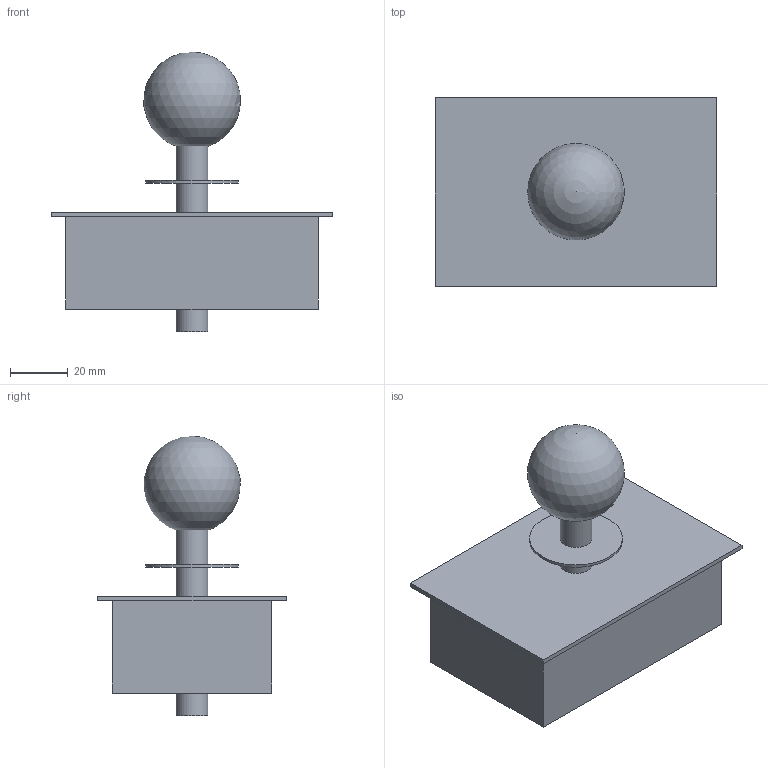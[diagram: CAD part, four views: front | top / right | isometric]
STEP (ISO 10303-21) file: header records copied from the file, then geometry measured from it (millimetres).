
FILE_DESCRIPTION(('FreeCAD Model'),'2;1');
FILE_NAME('/home/bluelambda/Documents/Arcade/meca/ZIPPY_joystick.step', '2016-04-02T23:54:54',('Author'),(''), 'Open CASCADE STEP processor 6.9','FreeCAD','Unknown');
FILE_SCHEMA(('AUTOMOTIVE_DESIGN { 1 0 10303 214 1 1 1 1 }'));
Length unit declared in the file: millimetre
Products named in the file (2): ZIPPY_handle; ZIPPY_joystick
Bounding box: 97 x 65 x 96.55 mm (x, y, z)
Volume: 186009.3 mm3; surface area: 28393 mm2
Topology: 2 solids, 2 shells, 20 faces, 39 edges, 26 vertices
Faces by surface type: plane 15, cylinder 4, sphere 1
Full cylindrical faces by diameter (mm): 11 x3, 32 x1
Entity records: 1006 total; most frequent: CARTESIAN_POINT 172, DIRECTION 155, LINE 92, VECTOR 92, ORIENTED_EDGE 72, PCURVE 72, DEFINITIONAL_REPRESENTATION 72, EDGE_CURVE 36
